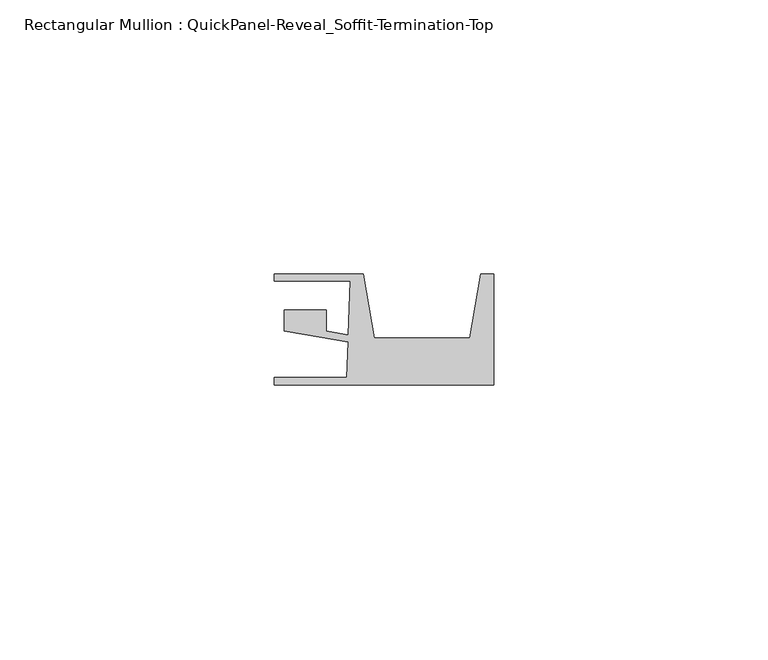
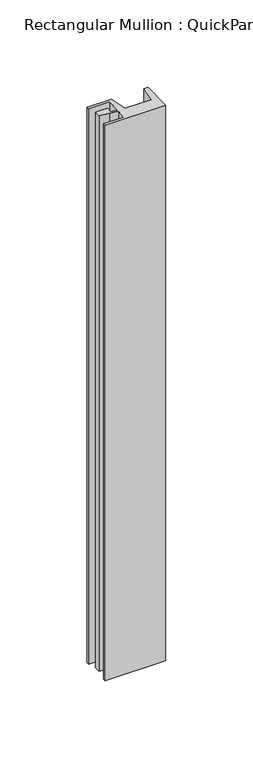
"""IFC4 building model written with IfcOpenShell, lengths in millimetres: member geometry, Rectangular Mullion : QuickPanel-Reveal_Soffit-Termination-Top."""

from ifc_helpers import new_model, si_unit, frame, origin, place, context, project, spatial, polyline, outline, extrude, source, transform, mapped, element, save


def rectangular_mullion_quickpanel_reveal_soffit_termination_top_ec016376(model_context):
    return source(origin(), model_context, "Body", "SweptSolid", [
        extrude(outline(polyline([(-40.0272216, -8.095605), (-40.0272216, -6.6935423), (-26.7863089, -6.6935423), (-26.5595237, -0.1992641), (-31.8098046, 0.7008023), (-38.2451373, 1.8040245), (-38.2451373, 5.6493034), (-30.5003642, 5.6493034), (-30.5003642, 1.7648465), (-26.5147952, 1.0815922), (-26.1708682, 10.9303752), (-40.0272216, 10.9303752), (-40.0272216, 12.1803727), (-23.8142192, 12.1803727), (-21.8189903, 0.5417732), (-4.3518779, 0.5417732), (-2.3566489, 12.1803727), (0.0, 12.1803727), (0.0, -8.095605), (-40.0272216, -8.095605)])), frame((0.0, 0.0, -387.814328), z_axis=(0.0, 0.0, 1.0), x_axis=(1.0, 0.0, 0.0)), (0.0, 0.0, 1.0), 387.814328),
    ])


if __name__ == "__main__":
    model = new_model("IFC4")
    model_context = context("Model", 3, world=origin())
    ifc_project = project(units=[si_unit("LENGTHUNIT", "METRE", prefix="MILLI")], contexts=[model_context])
    site = spatial("IfcSite", under=ifc_project)
    building = spatial("IfcBuilding", under=site)
    placement = place(None, origin())
    rectangular_mullion_quickpanel_reveal_soffit_termination_top_shape = rectangular_mullion_quickpanel_reveal_soffit_termination_top_ec016376(model_context)
    element("IfcMember", 1, ObjectType="Rectangular Mullion : QuickPanel-Reveal_Soffit-Termination-Top", at=placement, inside=building, context=model_context, shape_type="MappedRepresentation", body=[
        mapped(rectangular_mullion_quickpanel_reveal_soffit_termination_top_shape, transform((0.0, 0.0, 0.0), x_axis=(1.0, 0.0, 0.0), y_axis=(0.0, 1.0, 0.0), z_axis=(0.0, 0.0, 1.0))),
    ])
    save(model, "model.ifc")
